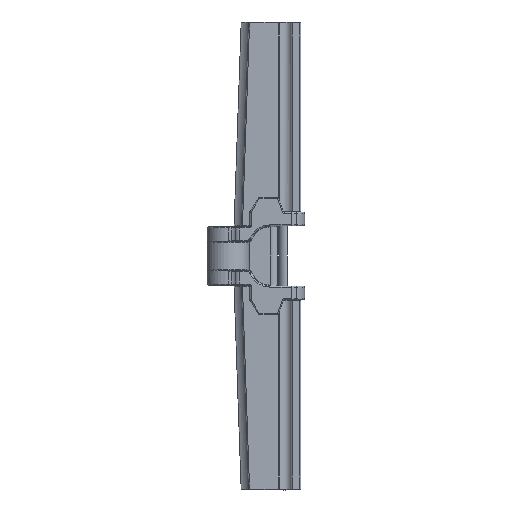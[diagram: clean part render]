
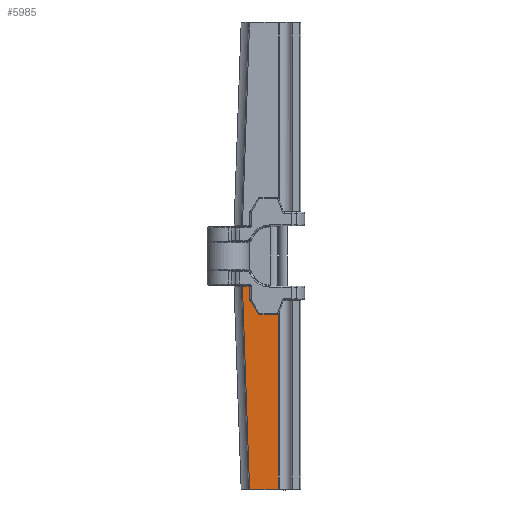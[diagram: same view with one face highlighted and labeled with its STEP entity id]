
A CAD part, front view. The second image highlights one B-rep face of the part: STEP entity #5985.
In plain terms, the highlighted planar face has unit normal (0, -1, 0).
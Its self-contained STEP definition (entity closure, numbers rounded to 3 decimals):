
#96 = EDGE_CURVE ( 'NONE', #1853, #6710, #3157, .T. ) ;
#415 = DIRECTION ( 'NONE',  ( -1., 0., 0. ) ) ;
#512 = CARTESIAN_POINT ( 'NONE',  ( -4.445, 9.017, -19.558 ) ) ;
#685 = DIRECTION ( 'NONE',  ( -1., 0., 0. ) ) ;
#1786 = VECTOR ( 'NONE', #8463, 1000. ) ;
#1853 = VERTEX_POINT ( 'NONE', #7368 ) ;
#2021 = ORIENTED_EDGE ( 'NONE', *, *, #5969, .F. ) ;
#2056 = CARTESIAN_POINT ( 'NONE',  ( -4.064, 9.017, -19.558 ) ) ;
#2298 = VECTOR ( 'NONE', #9105, 1000. ) ;
#2920 = VECTOR ( 'NONE', #9778, 1000. ) ;
#3157 = LINE ( 'NONE', #10190, #2920 ) ;
#3315 = LINE ( 'NONE', #10164, #8879 ) ;
#3692 = CARTESIAN_POINT ( 'NONE',  ( -4.445, 9.017, -152.4 ) ) ;
#3877 = PLANE ( 'NONE',  #6343 ) ;
#3946 = VERTEX_POINT ( 'NONE', #4674 ) ;
#4070 = VERTEX_POINT ( 'NONE', #8115 ) ;
#4402 = LINE ( 'NONE', #8315, #2298 ) ;
#4414 = ORIENTED_EDGE ( 'NONE', *, *, #5139, .T. ) ;
#4674 = CARTESIAN_POINT ( 'NONE',  ( -8.832, 9.017, -19.558 ) ) ;
#5059 = CARTESIAN_POINT ( 'NONE',  ( -4.215, 9.017, -151.765 ) ) ;
#5139 = EDGE_CURVE ( 'NONE', #8513, #3946, #6675, .T. ) ;
#5235 = LINE ( 'NONE', #9904, #9221 ) ;
#5455 = DIRECTION ( 'NONE',  ( 0., 0., -1. ) ) ;
#5535 = EDGE_LOOP ( 'NONE', ( #5793, #8674, #10134, #4414, #8856, #2021 ) ) ;
#5664 = VECTOR ( 'NONE', #6783, 1000. ) ;
#5793 = ORIENTED_EDGE ( 'NONE', *, *, #96, .T. ) ;
#5969 = EDGE_CURVE ( 'NONE', #1853, #10128, #3315, .T. ) ;
#5977 = LINE ( 'NONE', #3692, #1786 ) ;
#5985 = ADVANCED_FACE ( 'NONE', ( #6787 ), #3877, .T. ) ;
#6343 = AXIS2_PLACEMENT_3D ( 'NONE', #9411, #10199, #5455 ) ;
#6675 = LINE ( 'NONE', #2056, #5664 ) ;
#6710 = VERTEX_POINT ( 'NONE', #10136 ) ;
#6783 = DIRECTION ( 'NONE',  ( -1., 0., 0. ) ) ;
#6787 = FACE_OUTER_BOUND ( 'NONE', #5535, .T. ) ;
#7368 = CARTESIAN_POINT ( 'NONE',  ( 14.607, 9.017, -151.765 ) ) ;
#7437 = EDGE_CURVE ( 'NONE', #10128, #3946, #4402, .T. ) ;
#8115 = CARTESIAN_POINT ( 'NONE',  ( -4.445, 9.017, -29.083 ) ) ;
#8315 = CARTESIAN_POINT ( 'NONE',  ( -6.524, 9.017, -85.649 ) ) ;
#8463 = DIRECTION ( 'NONE',  ( 0., 0., 1. ) ) ;
#8513 = VERTEX_POINT ( 'NONE', #512 ) ;
#8674 = ORIENTED_EDGE ( 'NONE', *, *, #8930, .T. ) ;
#8856 = ORIENTED_EDGE ( 'NONE', *, *, #7437, .F. ) ;
#8879 = VECTOR ( 'NONE', #685, 1000. ) ;
#8930 = EDGE_CURVE ( 'NONE', #6710, #4070, #5235, .T. ) ;
#9105 = DIRECTION ( 'NONE',  ( -0.035, 0., 0.999 ) ) ;
#9221 = VECTOR ( 'NONE', #415, 1000. ) ;
#9368 = EDGE_CURVE ( 'NONE', #4070, #8513, #5977, .T. ) ;
#9411 = CARTESIAN_POINT ( 'NONE',  ( -4.064, 9.017, -152.4 ) ) ;
#9778 = DIRECTION ( 'NONE',  ( 0., 0., 1. ) ) ;
#9904 = CARTESIAN_POINT ( 'NONE',  ( -4.064, 9.017, -29.083 ) ) ;
#10128 = VERTEX_POINT ( 'NONE', #5059 ) ;
#10134 = ORIENTED_EDGE ( 'NONE', *, *, #9368, .T. ) ;
#10136 = CARTESIAN_POINT ( 'NONE',  ( 14.607, 9.017, -29.083 ) ) ;
#10164 = CARTESIAN_POINT ( 'NONE',  ( -4.064, 9.017, -151.765 ) ) ;
#10190 = CARTESIAN_POINT ( 'NONE',  ( 14.607, 9.017, -152.4 ) ) ;
#10199 = DIRECTION ( 'NONE',  ( 0., -1., 0. ) ) ;
